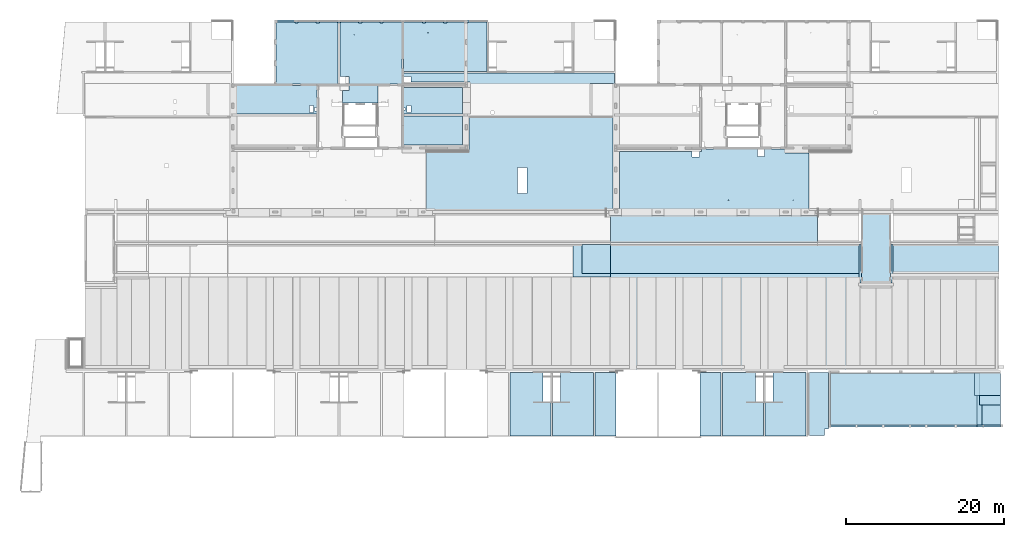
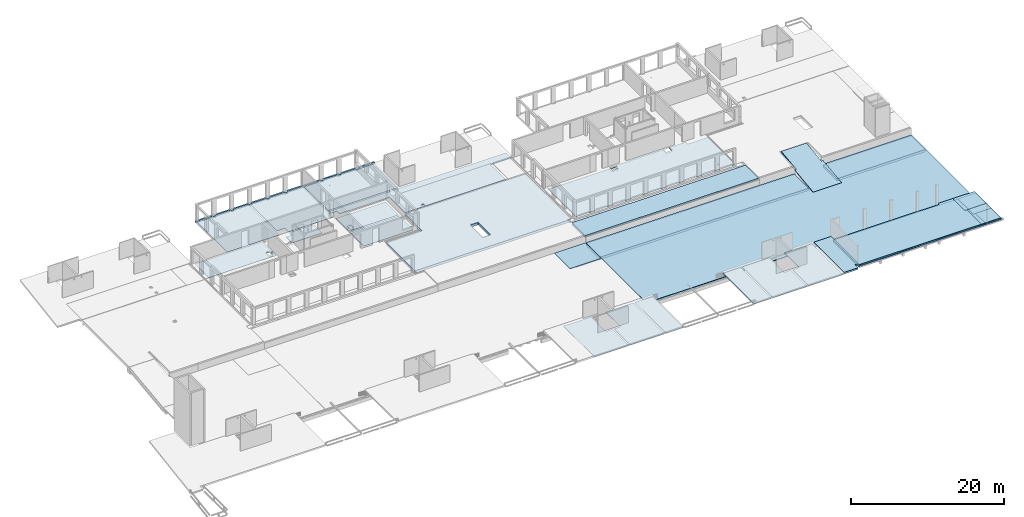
# One storey, part 16 of 36: 35 slabs, 15 openings.
"""IFC2X3 building model written with IfcOpenShell, lengths in millimetres."""

from ifc_helpers import new_model, entity, si_unit, converted_unit, derived_unit, direction, frame, frame_2d, origin, origin_2d_with_axis, place, context, subcontext, project, spatial, polyline, rectangle, circle, outline, extrude, clip, halfspace, material, layer, layer_set, layer_usage, element, save


model = new_model("IFC2X3")

# Units and contexts
model_context = context("Model", 3, precision=0.01, world=origin(), true_north=direction((6.12303176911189e-17, 1.0)))
body_context = subcontext(model_context, "Body", "Model", "MODEL_VIEW")
ifc_project = project(units=[si_unit("LENGTHUNIT", "METRE", prefix="MILLI"), si_unit("AREAUNIT", "SQUARE_METRE"), si_unit("VOLUMEUNIT", "CUBIC_METRE"), converted_unit("PLANEANGLEUNIT", "DEGREE", entity("IfcRatioMeasure", 0.0174532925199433), si_unit("PLANEANGLEUNIT", "RADIAN"), dimensions=[0, 0, 0, 0, 0, 0, 0]), si_unit("MASSUNIT", "GRAM", prefix="KILO"), derived_unit("MASSDENSITYUNIT", [(si_unit("MASSUNIT", "GRAM", prefix="KILO"), 1), (si_unit("LENGTHUNIT", "METRE"), -3)]), si_unit("TIMEUNIT", "SECOND"), si_unit("FREQUENCYUNIT", "HERTZ"), si_unit("THERMODYNAMICTEMPERATUREUNIT", "DEGREE_CELSIUS"), derived_unit("THERMALTRANSMITTANCEUNIT", [(si_unit("MASSUNIT", "GRAM", prefix="KILO"), 1), (si_unit("THERMODYNAMICTEMPERATUREUNIT", "KELVIN"), -1), (si_unit("TIMEUNIT", "SECOND"), -3)]), derived_unit("VOLUMETRICFLOWRATEUNIT", [(si_unit("LENGTHUNIT", "METRE"), 3), (si_unit("TIMEUNIT", "SECOND"), -1)]), si_unit("ELECTRICCURRENTUNIT", "AMPERE"), si_unit("ELECTRICVOLTAGEUNIT", "VOLT"), si_unit("POWERUNIT", "WATT"), si_unit("FORCEUNIT", "NEWTON", prefix="KILO"), si_unit("ILLUMINANCEUNIT", "LUX"), si_unit("LUMINOUSFLUXUNIT", "LUMEN"), si_unit("LUMINOUSINTENSITYUNIT", "CANDELA"), derived_unit("USERDEFINED", [(si_unit("MASSUNIT", "GRAM", prefix="KILO"), -1), (si_unit("LENGTHUNIT", "METRE"), -2), (si_unit("TIMEUNIT", "SECOND"), 3), (si_unit("LUMINOUSFLUXUNIT", "LUMEN"), 1)]), derived_unit("LINEARVELOCITYUNIT", [(si_unit("LENGTHUNIT", "METRE"), 1), (si_unit("TIMEUNIT", "SECOND"), -1)]), si_unit("PRESSUREUNIT", "PASCAL"), derived_unit("USERDEFINED", [(si_unit("LENGTHUNIT", "METRE"), -2), (si_unit("MASSUNIT", "GRAM", prefix="KILO"), 1), (si_unit("TIMEUNIT", "SECOND"), -2)])], contexts=[model_context])

# Site, building, storey
site_placement = place(None, origin())
site = spatial("IfcSite", under=ifc_project, at=site_placement, Name="Default", CompositionType="ELEMENT")
building_placement = place(site_placement, origin())
building = spatial("IfcBuilding", under=site, at=building_placement, Name="niet gebruiken", CompositionType="ELEMENT")
storey_placement = place(building_placement, frame((0.0, 0.0, 12600.0)))
storey = spatial("IfcBuildingStorey", under=building, at=storey_placement, Name="04 vierde verdieping", CompositionType="ELEMENT", Elevation=12600.0)

# Slabs
ifc_material_1 = material(Name="NLRS_f2_beton prefab")
ifc_layer_1 = layer(ifc_material_1, 400.0)
ifc_layer_set_1 = layer_set([ifc_layer_1], Name="Floor:NLRS_23.21_FL_kanaalplaat d=400_gen")
ifc_layer_usage_1 = layer_usage(ifc_layer_set_1, "AXIS3", "POSITIVE", 0.0)
slab_1_placement = place(storey_placement, origin())
element("IfcSlab", 1, at=slab_1_placement, inside=storey, material=ifc_layer_usage_1, Name="Floor:NLRS_23.21_FL_kanaalplaat d=400_gen", ObjectType="Floor:NLRS_23.21_FL_kanaalplaat d=400_gen", PredefinedType="FLOOR", context=body_context, shape_type="SweptSolid", body=[
    extrude(rectangle(XDim=3664.99999999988, YDim=13355.0000000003, at=frame_2d((0.0, -8.64019966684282e-12), x_axis=(1.0, 0.0))), frame((117522.499999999, 22898.4999999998, -1360.0), z_axis=(0.0, 0.0, -1.0), x_axis=(0.0, 1.0, 0.0)), (0.0, 0.0, 1.0), 400.0),
])
ifc_material_2 = material(Name="NLRS_f2_beton ihwg")
ifc_layer_2 = layer(ifc_material_2, 100.0)
ifc_layer_set_2 = layer_set([ifc_layer_2], Name="Floor:NLRS_23.21_FL_druklaag d=100_gen")
ifc_layer_usage_2 = layer_usage(ifc_layer_set_2, "AXIS3", "POSITIVE", 0.0)
slab_2_placement = place(storey_placement, origin())
element("IfcSlab", 2, at=slab_2_placement, inside=storey, material=ifc_layer_usage_2, Name="Floor:NLRS_23.21_FL_druklaag d=100_gen", ObjectType="Floor:NLRS_23.21_FL_druklaag d=100_gen", PredefinedType="FLOOR", context=body_context, shape_type="SweptSolid", body=[
    extrude(outline(polyline([(-10665.0, -29160.0), (5190.0, -29160.0), (5190.0, 2375.0), (285.0, 2375.0), (285.0, 6715.0), (5190.0, 6715.0), (5190.0, 20070.0), (-10665.0, 20070.0), (-10665.0, -29160.0)])), frame((104130.0, 19561.0, -1260.0), z_axis=(0.0, 0.0, -1.0), x_axis=(0.0, 1.0, 0.0)), (0.0, 0.0, 1.0), 99.9999999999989),
])

# Slab, openings
ifc_layer_usage_3 = layer_usage(ifc_layer_set_1, "AXIS3", "POSITIVE", 0.0)
slab_3_placement = place(storey_placement, frame((51625.0, 29101.0, -640.0)))
slab_3 = element("IfcSlab", 3, at=slab_3_placement, inside=storey, material=ifc_layer_usage_3, Name="Floor:NLRS_23.21_FL_kanaalplaat d=400_gen", ObjectType="Floor:NLRS_23.21_FL_kanaalplaat d=400_gen", PredefinedType="FLOOR", context=body_context, shape_type="SweptSolid", body=[
    extrude(outline(polyline([(6425.0, 1465.0), (6425.0, 5970.0), (-11825.0, 5970.0), (-11825.0, -5970.0), (11825.0, -5970.0), (11825.0, 1465.0), (6425.0, 1465.0)])), frame((11825.0, 5970.0, 400.0), z_axis=(0.0, 0.0, -1.0), x_axis=(-1.0, 0.0, 0.0)), (0.0, 0.0, 1.0), 400.0),
])
opening_1_placement = place(slab_3_placement, origin())
element("IfcOpeningElement", 4, at=opening_1_placement, cuts=slab_3, ObjectType="Opening", context=body_context, shape_type="SweptSolid", body=[
    extrude(rectangle(XDim=1200.0, YDim=3300.0, at=origin_2d_with_axis()), frame((12130.0, 3805.0, 230.0), z_axis=(0.0, 0.0, 1.0), x_axis=(-1.0, 0.0, 0.0)), (0.0, 0.0, 1.0), 249.999999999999),
])
opening_2_placement = place(slab_3_placement, frame((12130.0, 3805.0, 400.0)))
element("IfcOpeningElement", 5, at=opening_2_placement, cuts=slab_3, Name="Floor:NLRS_23.21_FL_kanaalplaat d=400_gen:2", ObjectType="Opening", context=body_context, shape_type="SweptSolid", body=[
    extrude(rectangle(XDim=1200.0, YDim=3299.99999999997, at=origin_2d_with_axis()), frame((0.0, 0.0, 0.0), z_axis=(0.0, 0.0, -1.0), x_axis=(1.0, 0.0, 0.0)), (0.0, 0.0, 1.0), 400.0),
])

# Slabs
ifc_layer_3 = layer(ifc_material_2, 250.0)
ifc_layer_set_3 = layer_set([ifc_layer_3], Name="Floor:NLRS_23.21_FL_breedplaat d=70/250_schil apart_gen")
ifc_layer_usage_4 = layer_usage(ifc_layer_set_3, "AXIS3", "POSITIVE", 0.0)
slab_4_placement = place(storey_placement, frame((32300.0, 53006.0, -340.0)))
element("IfcSlab", 6, at=slab_4_placement, inside=storey, material=ifc_layer_usage_4, Name="Floor:NLRS_23.21_FL_breedplaat d=70/250_schil apart_gen", ObjectType="Floor:NLRS_23.21_FL_breedplaat d=70/250_schil apart_gen", PredefinedType="FLOOR", context=body_context, shape_type="SweptSolid", body=[
    extrude(outline(polyline([(13540.0, 125.0), (-13540.0, 125.0), (-13540.0, -125.0), (-11065.0, -125.0), (-11065.0, -285.0), (-10655.0, -285.0), (-10655.0, -125.0), (-8365.0, -125.0), (-8365.0, -285.0), (-7955.0, -285.0), (-7955.0, -125.0), (-5665.0, -125.0), (-5665.0, -285.0), (-5255.0, -285.0), (-5255.0, -125.0), (-265.0, -125.0), (-265.0, -285.0), (145.0, -285.0), (145.0, -125.0), (2435.0, -125.0), (2435.0, -285.0), (2845.0, -285.0), (2845.0, -125.0), (5135.0, -125.0), (5135.0, -285.0), (5545.0, -285.0), (5545.0, -125.0), (7835.0, -125.0), (7835.0, -285.0), (8245.0, -285.0), (8245.0, -125.0), (10535.0, -125.0), (10535.0, -285.0), (10945.0, -285.0), (10945.0, -125.0), (13540.0, -125.0), (13540.0, 125.0)])), frame((13540.0, 125.0, 250.0), z_axis=(0.0, 0.0, -1.0), x_axis=(-1.0, 0.0, 0.0)), (0.0, 0.0, 1.0), 249.999999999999),
])
ifc_layer_usage_5 = layer_usage(ifc_layer_set_1, "AXIS3", "POSITIVE", 0.0)
slab_5_placement = place(storey_placement, origin())
element("IfcSlab", 7, at=slab_5_placement, inside=storey, material=ifc_layer_usage_5, Name="Floor:NLRS_23.21_FL_kanaalplaat d=400_gen", ObjectType="Floor:NLRS_23.21_FL_kanaalplaat d=400_gen", PredefinedType="FLOOR", context=body_context, shape_type="SweptSolid", body=[
    extrude(rectangle(XDim=3664.9999999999, YDim=31535.0000000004, at=origin_2d_with_axis()), frame((90737.4999999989, 22898.4999999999, -1360.0), z_axis=(0.0, 0.0, -1.0), x_axis=(0.0, 1.0, 0.0)), (0.0, 0.0, 1.0), 400.0),
])
ifc_layer_usage_6 = layer_usage(ifc_layer_set_2, "AXIS3", "POSITIVE", 0.0)
slab_6_placement = place(storey_placement, origin())
element("IfcSlab", 8, at=slab_6_placement, inside=storey, material=ifc_layer_usage_6, Name="Floor:NLRS_23.21_FL_druklaag d=100_gen", ObjectType="Floor:NLRS_23.21_FL_druklaag d=100_gen", PredefinedType="FLOOR", context=body_context, shape_type="SweptSolid", body=[
    extrude(rectangle(XDim=4104.99999999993, YDim=4749.99999999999, at=frame_2d((-2.04636307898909e-12, 4.32009983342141e-12), x_axis=(1.0, 0.0))), frame((72575.0, 22698.4999999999, -1260.0), z_axis=(0.0, 0.0, -1.0), x_axis=(0.0, 1.0, 0.0)), (0.0, 0.0, 1.0), 99.9999999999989),
])
ifc_layer_usage_7 = layer_usage(ifc_layer_set_1, "AXIS3", "POSITIVE", 0.0)
slab_7_placement = place(storey_placement, origin())
element("IfcSlab", 9, at=slab_7_placement, inside=storey, material=ifc_layer_usage_7, Name="Floor:NLRS_23.21_FL_kanaalplaat d=400_gen", ObjectType="Floor:NLRS_23.21_FL_kanaalplaat d=400_gen", PredefinedType="FLOOR", context=body_context, shape_type="SweptSolid", body=[
    extrude(rectangle(XDim=3664.99999999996, YDim=3600.0, at=origin_2d_with_axis()), frame((73150.0, 22898.4999999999, -1360.0), z_axis=(0.0, 0.0, -1.0), x_axis=(0.0, 1.0, 0.0)), (0.0, 0.0, 1.0), 400.0),
])
ifc_layer_4 = layer(ifc_material_1, 255.0)
ifc_layer_set_4 = layer_set([ifc_layer_4], Name="Floor:NLRS_23.21_FL_kanaalplaat d=255_gen")
ifc_layer_usage_8 = layer_usage(ifc_layer_set_4, "AXIS3", "POSITIVE", 0.0)
slab_8_placement = place(storey_placement, origin())
element("IfcSlab", 10, at=slab_8_placement, inside=storey, material=ifc_layer_usage_8, Name="Floor:NLRS_23.21_FL_kanaalplaat d=255_gen", ObjectType="Floor:NLRS_23.21_FL_kanaalplaat d=255_gen", PredefinedType="FLOOR", context=body_context, shape_type="SweptSolid", body=[
    extrude(outline(polyline([(-3050.66666666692, -12693.3353699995), (3555.33333333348, -12693.3353699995), (3555.33333333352, 6181.66463000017), (-504.666666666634, 6181.66463000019), (-504.666666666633, 6511.67073999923), (-3050.66666666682, 6511.67073999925), (-3050.66666666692, -12693.3353699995)])), frame((115618.335369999, 4900.66666666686, -760.0), z_axis=(0.0, 0.0, -1.0), x_axis=(0.0, 1.0, 0.0)), (0.0, 0.0, 1.0), 255.000000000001),
])
ifc_layer_5 = layer(ifc_material_2, 70.0)
ifc_layer_set_5 = layer_set([ifc_layer_5], Name="Floor:NLRS_23.21_FL_druklaag d=70_gen")
ifc_layer_usage_9 = layer_usage(ifc_layer_set_5, "AXIS3", "POSITIVE", 0.0)
slab_9_placement = place(storey_placement, origin())
element("IfcSlab", 11, at=slab_9_placement, inside=storey, material=ifc_layer_usage_9, Name="Floor:NLRS_23.21_FL_druklaag d=70_gen", ObjectType="Floor:NLRS_23.21_FL_druklaag d=70_gen", PredefinedType="FLOOR", context=body_context, shape_type="SweptSolid", body=[
    extrude(outline(polyline([(-4337.0, -13238.7499999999), (2329.0, -13238.7499999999), (2329.0, 2836.25000000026), (2579.0, 2836.25000000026), (2579.0, 5036.24999999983), (-571.0, 5036.24999999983), (-571.0, 5366.24999999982), (-4337.0, 5366.24999999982), (-4337.0, -13238.7499999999)])), frame((116163.75, 6167.0, -690.0), z_axis=(0.0, 0.0, -1.0), x_axis=(0.0, 1.0, 0.0)), (0.0, 0.0, 1.0), 69.9999999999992),
])
ifc_layer_6 = layer(ifc_material_2, 270.0)
ifc_layer_set_6 = layer_set([ifc_layer_6], Name="Floor:NLRS_23.21_FL_beton ihwg d=270_gen")
ifc_layer_usage_10 = layer_usage(ifc_layer_set_6, "AXIS3", "POSITIVE", 0.0)
slab_10_placement = place(storey_placement, origin())
element("IfcSlab", 12, at=slab_10_placement, inside=storey, material=ifc_layer_usage_10, Name="Floor:NLRS_23.21_FL_beton ihwg d=270_gen", ObjectType="Floor:NLRS_23.21_FL_beton ihwg d=270_gen", PredefinedType="FLOOR", context=body_context, shape_type="SweptSolid", body=[
    extrude(outline(polyline([(-2908.66666666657, -1560.00009290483), (5052.33333333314, -1560.00009290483), (5052.33333333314, 1054.99990709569), (-2143.66666666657, 1054.99990709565), (-2143.66666666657, 505.000185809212), (-2908.66666666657, 505.000185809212), (-2908.66666666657, -1560.00009290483)])), frame((101620.0, 3443.66666666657, -90.0), z_axis=(0.0, 0.0, -1.0), x_axis=(0.0, 1.0, 0.0)), (0.0, 0.0, 1.0), 269.999999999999),
])
ifc_layer_7 = layer(ifc_material_1, 70.0)
ifc_layer_set_7 = layer_set([ifc_layer_7], Name="Floor:NLRS_23.21_FL_breedplaatschil d=70_gen")
ifc_layer_usage_11 = layer_usage(ifc_layer_set_7, "AXIS3", "POSITIVE", 0.0)
slab_11_placement = place(storey_placement, origin())
element("IfcSlab", 13, at=slab_11_placement, inside=storey, material=ifc_layer_usage_11, Name="Floor:NLRS_23.21_FL_breedplaatschil d=70_gen", ObjectType="Floor:NLRS_23.21_FL_breedplaatschil d=70_gen", PredefinedType="FLOOR", context=body_context, shape_type="SweptSolid", body=[
    extrude(outline(polyline([(-4114.0, -2070.0), (132.0, -2070.0), (132.0, -1050.0), (3982.0, -1050.0), (3982.0, 3120.0), (-4114.0, 3120.0), (-4114.0, -2070.0)])), frame((69675.0, 4534.0, -270.0), z_axis=(0.0, 0.0, -1.0), x_axis=(0.0, 1.0, 0.0)), (0.0, 0.0, 1.0), 69.9999999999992),
])
ifc_layer_usage_12 = layer_usage(ifc_layer_set_7, "AXIS3", "POSITIVE", 0.0)
slab_12_placement = place(storey_placement, origin())
element("IfcSlab", 14, at=slab_12_placement, inside=storey, material=ifc_layer_usage_12, Name="Floor:NLRS_23.21_FL_breedplaatschil d=70_gen", ObjectType="Floor:NLRS_23.21_FL_breedplaatschil d=70_gen", PredefinedType="FLOOR", context=body_context, shape_type="SweptSolid", body=[
    extrude(rectangle(XDim=8095.99999999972, YDim=2675.00000000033, at=frame_2d((0.0, 8.64019966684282e-12), x_axis=(1.0, 0.0))), frame((74342.4999999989, 4468.0, -270.0), z_axis=(0.0, 0.0, -1.0), x_axis=(0.0, 1.0, 0.0)), (0.0, 0.0, 1.0), 69.9999999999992),
])
ifc_layer_usage_13 = layer_usage(ifc_layer_set_7, "AXIS3", "POSITIVE", 0.0)
slab_13_placement = place(storey_placement, origin())
element("IfcSlab", 15, at=slab_13_placement, inside=storey, material=ifc_layer_usage_13, Name="Floor:NLRS_23.21_FL_breedplaatschil d=70_gen", ObjectType="Floor:NLRS_23.21_FL_breedplaatschil d=70_gen", PredefinedType="FLOOR", context=body_context, shape_type="SweptSolid", body=[
    extrude(outline(polyline([(-4114.0, -3120.0), (3982.0, -3120.0), (3982.0, 1050.0), (132.0, 1050.0), (132.0, 2070.0), (-4114.0, 2070.0), (-4114.0, -3120.0)])), frame((65325.0, 4534.0, -270.0), z_axis=(0.0, 0.0, -1.0), x_axis=(0.0, 1.0, 0.0)), (0.0, 0.0, 1.0), 69.9999999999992),
])
ifc_layer_usage_14 = layer_usage(ifc_layer_set_7, "AXIS3", "POSITIVE", 0.0)
slab_14_placement = place(storey_placement, origin())
element("IfcSlab", 16, at=slab_14_placement, inside=storey, material=ifc_layer_usage_14, Name="Floor:NLRS_23.21_FL_breedplaatschil d=70_gen", ObjectType="Floor:NLRS_23.21_FL_breedplaatschil d=70_gen", PredefinedType="FLOOR", context=body_context, shape_type="SweptSolid", body=[
    extrude(outline(polyline([(-4114.0, -3120.0), (3982.0, -3120.0), (3982.0, 1050.0), (132.0, 1050.0), (132.0, 2070.0), (-4114.0, 2070.0), (-4114.0, -3120.0)])), frame((92325.0, 4534.0, -270.0), z_axis=(0.0, 0.0, -1.0), x_axis=(0.0, 1.0, 0.0)), (0.0, 0.0, 1.0), 69.9999999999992),
])
ifc_layer_usage_15 = layer_usage(ifc_layer_set_7, "AXIS3", "POSITIVE", 0.0)
slab_15_placement = place(storey_placement, origin())
element("IfcSlab", 17, at=slab_15_placement, inside=storey, material=ifc_layer_usage_15, Name="Floor:NLRS_23.21_FL_breedplaatschil d=70_gen", ObjectType="Floor:NLRS_23.21_FL_breedplaatschil d=70_gen", PredefinedType="FLOOR", context=body_context, shape_type="SweptSolid", body=[
    extrude(rectangle(XDim=8095.99999999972, YDim=2675.00000000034, at=frame_2d((4.54747350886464e-13, 0.0), x_axis=(1.0, 0.0))), frame((87657.4999999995, 4468.0, -270.0), z_axis=(0.0, 0.0, -1.0), x_axis=(0.0, 1.0, 0.0)), (0.0, 0.0, 1.0), 69.9999999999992),
])
ifc_layer_usage_16 = layer_usage(ifc_layer_set_7, "AXIS3", "POSITIVE", 0.0)
slab_16_placement = place(storey_placement, origin())
element("IfcSlab", 18, at=slab_16_placement, inside=storey, material=ifc_layer_usage_16, Name="Floor:NLRS_23.21_FL_breedplaatschil d=70_gen", ObjectType="Floor:NLRS_23.21_FL_breedplaatschil d=70_gen", PredefinedType="FLOOR", context=body_context, shape_type="SweptSolid", body=[
    extrude(outline(polyline([(-4114.0, -2070.0), (132.0, -2070.0), (132.0, -1050.0), (3982.0, -1050.0), (3982.0, 3120.0), (-4114.0, 3120.0), (-4114.0, -2070.0)])), frame((96675.0, 4534.0, -270.0), z_axis=(0.0, 0.0, -1.0), x_axis=(0.0, 1.0, 0.0)), (0.0, 0.0, 1.0), 69.9999999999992),
])
ifc_layer_usage_17 = layer_usage(ifc_layer_set_7, "AXIS3", "POSITIVE", 0.0)
slab_17_placement = place(storey_placement, origin())
element("IfcSlab", 19, at=slab_17_placement, inside=storey, material=ifc_layer_usage_17, Name="Floor:NLRS_23.21_FL_breedplaatschil d=70_gen", ObjectType="Floor:NLRS_23.21_FL_breedplaatschil d=70_gen", PredefinedType="FLOOR", context=body_context, shape_type="SweptSolid", body=[
    extrude(outline(polyline([(-1261.66666666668, -1808.33338363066), (313.333333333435, -1808.33338363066), (313.333333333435, -933.333232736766), (948.333333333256, -933.333232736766), (948.333333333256, 2741.66661636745), (-1261.66666666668, 2741.66661636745), (-1261.66666666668, -1808.33338363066)])), frame((42733.3332327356, 43977.6666666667, -270.0), z_axis=(0.0, 0.0, -1.0), x_axis=(0.0, 1.0, 0.0)), (0.0, 0.0, 1.0), 70.0000000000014),
])

# Slab, openings
ifc_layer_usage_18 = layer_usage(ifc_layer_set_7, "AXIS3", "POSITIVE", 0.0)
slab_18_placement = place(storey_placement, frame((27505.0, 41291.0, -340.0)))
slab_18 = element("IfcSlab", 20, at=slab_18_placement, inside=storey, material=ifc_layer_usage_18, Name="Floor:NLRS_23.21_FL_breedplaatschil d=70_gen", ObjectType="Floor:NLRS_23.21_FL_breedplaatschil d=70_gen", PredefinedType="FLOOR", context=body_context, shape_type="SweptSolid", body=[
    extrude(rectangle(XDim=10190.0, YDim=3635.0000000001, at=frame_2d((0.0, 0.0), x_axis=(-1.0, 0.0))), frame((5095.0, 1817.50000000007, 70.0), z_axis=(0.0, 0.0, -1.0), x_axis=(-1.0, 0.0, 0.0)), (0.0, 0.0, 1.0), 69.9999999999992),
])
opening_3_placement = place(slab_18_placement, origin())
element("IfcOpeningElement", 21, at=opening_3_placement, cuts=slab_18, ObjectType="Opening", context=body_context, shape_type="SweptSolid", body=[
    extrude(rectangle(XDim=249.999999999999, YDim=450.000000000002, at=origin_2d_with_axis()), frame((10030.0, 624.788729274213, 0.0), z_axis=(0.0, 0.0, 1.0), x_axis=(-1.0, 0.0, 0.0)), (0.0, 0.0, 1.0), 249.999999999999),
])
opening_4_placement = place(slab_18_placement, origin())
element("IfcOpeningElement", 22, at=opening_4_placement, cuts=slab_18, ObjectType="Opening", context=body_context, shape_type="SweptSolid", body=[
    extrude(rectangle(XDim=490.000000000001, YDim=900.000000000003, at=origin_2d_with_axis()), frame((9515.0, 645.0, 0.0), z_axis=(0.0, 0.0, 1.0), x_axis=(-1.0, 0.0, 0.0)), (0.0, 0.0, 1.0), 249.999999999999),
])

ifc_layer_usage_19 = layer_usage(ifc_layer_set_7, "AXIS3", "POSITIVE", 0.0)
slab_19_placement = place(storey_placement, frame((48705.0, 41291.0, -340.0)))
slab_19 = element("IfcSlab", 23, at=slab_19_placement, inside=storey, material=ifc_layer_usage_19, Name="Floor:NLRS_23.21_FL_breedplaatschil d=70_gen", ObjectType="Floor:NLRS_23.21_FL_breedplaatschil d=70_gen", PredefinedType="FLOOR", context=body_context, shape_type="SweptSolid", body=[
    extrude(rectangle(XDim=3410.00000000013, YDim=7490.00000000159, at=frame_2d((0.0, 0.0), x_axis=(0.0, -1.0))), frame((3745.0, 1705.0, 70.0), z_axis=(0.0, 0.0, -1.0), x_axis=(-1.0, 0.0, 0.0)), (0.0, 0.0, 1.0), 69.9999999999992),
])
opening_5_placement = place(slab_19_placement, origin())
element("IfcOpeningElement", 24, at=opening_5_placement, cuts=slab_19, ObjectType="Opening", context=body_context, shape_type="SweptSolid", body=[
    extrude(rectangle(XDim=900.000000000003, YDim=500.000000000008, at=origin_2d_with_axis()), frame((670.0, 645.0, 0.0), z_axis=(0.0, 0.0, 1.0), x_axis=(0.0, -1.0, 0.0)), (0.0, 0.0, 1.0), 249.999999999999),
])
opening_6_placement = place(slab_19_placement, origin())
element("IfcOpeningElement", 25, at=opening_6_placement, cuts=slab_19, ObjectType="Opening", context=body_context, shape_type="SweptSolid", body=[
    extrude(rectangle(XDim=250.000000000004, YDim=250.000000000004, at=origin_2d_with_axis()), frame((145.0, 643.008926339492, 0.0), z_axis=(0.0, 0.0, 1.0), x_axis=(-1.0, 0.0, 0.0)), (0.0, 0.0, 1.0), 249.999999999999),
])

# Slab
ifc_layer_usage_20 = layer_usage(ifc_layer_set_7, "AXIS3", "POSITIVE", 0.0)
slab_20_placement = place(storey_placement, origin())
element("IfcSlab", 26, at=slab_20_placement, inside=storey, material=ifc_layer_usage_20, Name="Floor:NLRS_23.21_FL_breedplaatschil d=70_gen", ObjectType="Floor:NLRS_23.21_FL_breedplaatschil d=70_gen", PredefinedType="FLOOR", context=body_context, shape_type="SweptSolid", body=[
    extrude(rectangle(XDim=3694.99999999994, YDim=7490.00000000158, at=frame_2d((-6.48014975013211e-12, 8.64019966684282e-12), x_axis=(1.0, 0.0))), frame((52450.0, 39233.5000000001, -270.0), z_axis=(0.0, 0.0, -1.0), x_axis=(0.0, 1.0, 0.0)), (0.0, 0.0, 1.0), 69.9999999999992),
])

# Slab, opening
ifc_layer_usage_21 = layer_usage(ifc_layer_set_7, "AXIS3", "POSITIVE", 0.0)
slab_21_placement = place(storey_placement, frame((48705.0, 46726.0, -340.0)))
slab_21 = element("IfcSlab", 27, at=slab_21_placement, inside=storey, material=ifc_layer_usage_21, Name="Floor:NLRS_23.21_FL_breedplaatschil d=70_gen", ObjectType="Floor:NLRS_23.21_FL_breedplaatschil d=70_gen", PredefinedType="FLOOR", context=body_context, shape_type="SweptSolid", body=[
    extrude(outline(polyline([(2885.0, 3150.0), (2885.0, 2990.0), (2515.0, 2990.0), (2515.0, 3150.0), (185.0, 3150.0), (185.0, 2990.0), (-185.0, 2990.0), (-185.0, 3150.0), (-2515.0, 3150.0), (-2515.0, 2990.0), (-2885.0, 2990.0), (-2885.0, 3150.0), (-5295.0, 3150.0), (-5295.0, -3150.0), (5295.0, -3150.0), (5295.0, 3150.0), (2885.0, 3150.0)])), frame((5295.0, 3150.0, 70.0), z_axis=(0.0, 0.0, -1.0), x_axis=(-1.0, 0.0, 0.0)), (0.0, 0.0, 1.0), 69.9999999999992),
])
opening_7_placement = place(storey_placement, frame((48705.0, 46726.0, -340.0)))
element("IfcOpeningElement", 28, at=opening_7_placement, cuts=slab_21, ObjectType="Opening", context=body_context, shape_type="SweptSolid", body=[
    extrude(circle(Radius=37.5, at=frame_2d((2200.0, 1780.0), x_axis=(1.0, 0.0))), frame((5295.0, 3150.0, 70.0), z_axis=(0.0, 0.0, -1.0), x_axis=(-1.0, 0.0, 0.0)), (0.0, 0.0, 1.0), 69.9999999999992),
])

# Slab
ifc_layer_usage_22 = layer_usage(ifc_layer_set_7, "AXIS3", "POSITIVE", 0.0)
slab_22_placement = place(storey_placement, origin())
element("IfcSlab", 29, at=slab_22_placement, inside=storey, material=ifc_layer_usage_22, Name="Floor:NLRS_23.21_FL_breedplaatschil d=70_gen", ObjectType="Floor:NLRS_23.21_FL_breedplaatschil d=70_gen", PredefinedType="FLOOR", context=body_context, shape_type="SweptSolid", body=[
    extrude(outline(polyline([(-6694.28571428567, -4475.71428571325), (1195.71428571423, -4475.71428571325), (1195.71428571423, -2090.71428571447), (1035.71428571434, -2090.71428571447), (1035.71428571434, -1720.71428571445), (1195.71428571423, -1720.71428571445), (1195.71428571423, 609.285714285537), (1035.71428571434, 609.285714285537), (1035.71428571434, 979.285714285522), (1195.71428571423, 979.285714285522), (1195.71428571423, 3309.28571428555), (1035.71428571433, 3309.28571428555), (1035.71428571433, 3389.28571428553), (-6694.28571428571, 3389.28571428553), (-6694.28571428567, -4475.71428571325)])), frame((37005.7142857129, 51830.2857142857, -270.0), z_axis=(0.0, 0.0, -1.0), x_axis=(0.0, 1.0, 0.0)), (0.0, 0.0, 1.0), 69.9999999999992),
])

# Slab, openings
ifc_layer_usage_23 = layer_usage(ifc_layer_set_7, "AXIS3", "POSITIVE", 0.0)
slab_23_placement = place(storey_placement, frame((40605.0, 45136.0, -340.0)))
slab_23 = element("IfcSlab", 30, at=slab_23_placement, inside=storey, material=ifc_layer_usage_23, Name="Floor:NLRS_23.21_FL_breedplaatschil d=70_gen", ObjectType="Floor:NLRS_23.21_FL_breedplaatschil d=70_gen", PredefinedType="FLOOR", context=body_context, shape_type="SweptSolid", body=[
    extrude(outline(polyline([(-1535.0, 3945.0), (-3945.0, 3945.0), (-3945.0, -3945.0), (3575.0, -3945.0), (3575.0, -3025.0), (3945.0, -3025.0), (3945.0, 3785.0), (3865.0, 3785.0), (3865.0, 3945.0), (1535.0, 3945.0), (1535.0, 3785.0), (1165.0, 3785.0), (1165.0, 3945.0), (-1165.0, 3945.0), (-1165.0, 3785.0), (-1535.0, 3785.0), (-1535.0, 3945.0)])), frame((3945.0, 3945.0, 70.0), z_axis=(0.0, 0.0, -1.0), x_axis=(-1.0, 0.0, 0.0)), (0.0, 0.0, 1.0), 69.9999999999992),
])
opening_8_placement = place(storey_placement, frame((40605.0, 45136.0, -340.0)))
element("IfcOpeningElement", 31, at=opening_8_placement, cuts=slab_23, ObjectType="Opening", context=body_context, shape_type="SweptSolid", body=[
    extrude(circle(Radius=37.5, at=frame_2d((2100.0, 2325.0), x_axis=(1.0, 0.0))), frame((3945.0, 3945.0, 70.0), z_axis=(0.0, 0.0, -1.0), x_axis=(-1.0, 0.0, 0.0)), (0.0, 0.0, 1.0), 69.9999999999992),
])
opening_9_placement = place(slab_23_placement, origin())
element("IfcOpeningElement", 32, at=opening_9_placement, cuts=slab_23, ObjectType="Opening", context=body_context, shape_type="SweptSolid", body=[
    extrude(rectangle(XDim=1200.0, YDim=1800.00000000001, at=origin_2d_with_axis()), frame((595.0, 55.0, 0.0), z_axis=(0.0, 0.0, 1.0), x_axis=(-1.0, 0.0, 0.0)), (0.0, 0.0, 1.0), 100.000000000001),
])

# Slab, opening
ifc_layer_usage_24 = layer_usage(ifc_layer_set_7, "AXIS3", "POSITIVE", 0.0)
slab_24_placement = place(storey_placement, frame((48705.0, 41291.0, -340.0)))
slab_24 = element("IfcSlab", 33, at=slab_24_placement, inside=storey, material=ifc_layer_usage_24, Name="Floor:NLRS_23.21_FL_breedplaatschil d=70_gen", ObjectType="Floor:NLRS_23.21_FL_breedplaatschil d=70_gen", PredefinedType="FLOOR", context=body_context, shape_type="SweptSolid", body=[
    extrude(outline(polyline([(-13382.5000000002, 2612.4999999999), (-13382.5000000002, 1272.49999999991), (-10287.5000000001, 1272.49999999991), (-10287.5000000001, -2612.4999999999), (4932.49999999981, -2612.4999999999), (4932.49999999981, 1457.50000000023), (12462.5000000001, 1457.50000000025), (12462.5000000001, 2152.50000000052), (13382.5000000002, 2152.50000000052), (13382.5000000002, 2612.4999999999), (-13382.5000000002, 2612.4999999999)])), frame((13382.5000000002, 2612.4999999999, 70.0), z_axis=(0.0, 0.0, -1.0), x_axis=(-1.0, 0.0, 0.0)), (0.0, 0.0, 1.0), 69.9999999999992),
])
opening_10_placement = place(slab_24_placement, origin())
element("IfcOpeningElement", 34, at=opening_10_placement, cuts=slab_24, ObjectType="Opening", context=body_context, shape_type="SweptSolid", body=[
    extrude(rectangle(XDim=400.000000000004, YDim=400.000000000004, at=origin_2d_with_axis()), frame((11295.0, 219.99962752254, 0.0), z_axis=(0.0, 0.0, 1.0), x_axis=(-1.0, 0.0, 0.0)), (0.0, 0.0, 1.0), 275.0),
])

# Slab, openings
ifc_layer_usage_25 = layer_usage(ifc_layer_set_7, "AXIS3", "POSITIVE", 0.0)
slab_25_placement = place(storey_placement, frame((76105.0, 29286.0, -340.0)))
slab_25 = element("IfcSlab", 35, at=slab_25_placement, inside=storey, material=ifc_layer_usage_25, Name="Floor:NLRS_23.21_FL_breedplaatschil d=70_gen", ObjectType="Floor:NLRS_23.21_FL_breedplaatschil d=70_gen", PredefinedType="FLOOR", context=body_context, shape_type="SweptSolid", body=[
    extrude(outline(polyline([(12035.0, -3795.0), (12035.0, 3495.0), (1635.0, 3495.0), (1635.0, 3795.0), (-5489.98186661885, 3795.0), (-5489.98186661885, 2875.0), (-6389.98186661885, 2875.0), (-6389.98186661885, 3795.0), (-8955.0, 3795.0), (-8955.0, 3295.0), (-12035.0, 3295.0), (-12035.0, -3795.0), (12035.0, -3795.0)])), frame((12035.0, 3795.0, 70.0), z_axis=(0.0, 0.0, -1.0), x_axis=(-1.0, 0.0, 0.0)), (0.0, 0.0, 1.0), 69.9999999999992),
])
opening_11_placement = place(storey_placement, frame((76105.0, 29286.0, -340.0)))
element("IfcOpeningElement", 36, at=opening_11_placement, cuts=slab_25, ObjectType="Opening", context=body_context, shape_type="SweptSolid", body=[
    extrude(circle(Radius=37.5, at=frame_2d((-10060.0, -2725.0), x_axis=(1.0, 0.0))), frame((12035.0, 3795.0, 70.0), z_axis=(0.0, 0.0, -1.0), x_axis=(-1.0, 0.0, 0.0)), (0.0, 0.0, 1.0), 69.9999999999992),
])
opening_12_placement = place(storey_placement, frame((76105.0, 29286.0, -340.0)))
element("IfcOpeningElement", 37, at=opening_12_placement, cuts=slab_25, ObjectType="Opening", context=body_context, shape_type="SweptSolid", body=[
    extrude(circle(Radius=37.5, at=frame_2d((-1810.0, -2725.0), x_axis=(1.0, 0.0))), frame((12035.0, 3795.0, 70.0), z_axis=(0.0, 0.0, -1.0), x_axis=(-1.0, 0.0, 0.0)), (0.0, 0.0, 1.0), 69.9999999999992),
])
opening_13_placement = place(slab_25_placement, origin())
element("IfcOpeningElement", 38, at=opening_13_placement, cuts=slab_25, ObjectType="Opening", context=body_context, shape_type="SweptSolid", body=[
    extrude(rectangle(XDim=919.999999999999, YDim=706.000000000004, at=origin_2d_with_axis()), frame((9700.0, 6917.0, 0.0), z_axis=(0.0, 0.0, 1.0), x_axis=(-1.0, 0.0, 0.0)), (0.0, 0.0, 1.0), 249.999999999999),
])

# Slab
ifc_layer_usage_26 = layer_usage(ifc_layer_set_2, "AXIS3", "POSITIVE", 0.0)
slab_26_placement = place(storey_placement, origin())
element("IfcSlab", 39, at=slab_26_placement, inside=storey, material=ifc_layer_usage_26, Name="Floor:NLRS_23.21_FL_druklaag d=100_gen", ObjectType="Floor:NLRS_23.21_FL_druklaag d=100_gen", PredefinedType="FLOOR", context=body_context, shape_type="Clipping", body=[
    clip(clip(extrude(outline(polyline([(-4679.76626445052, -2150.0), (238.0823213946, -2150.0), (238.0823213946, -1900.0), (4203.60162166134, -1900.0), (4203.60162166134, 1900.0), (238.082321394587, 1900.0), (238.082321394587, 2150.0), (-4679.76626445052, 2150.0), (-4679.76626445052, -2150.0)])), frame((108675.0, 24489.7499999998, -680.519001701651), z_axis=(0.0, 0.123826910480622, -0.992303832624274), x_axis=(0.0, 0.992303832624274, 0.123826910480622)), (-0.123826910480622, 0.0, 0.992303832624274), 101.557186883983), halfspace(frame((107960.0, 19846.0, -1360.77558577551), z_axis=(0.0, 0.123826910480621, -0.992303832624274), x_axis=(0.0, 0.992303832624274, 0.123826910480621)), False)), halfspace(frame((107960.0, 19846.0, -1260.0), z_axis=(0.0, -0.123826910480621, 0.992303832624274), x_axis=(0.0, -0.992303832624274, -0.123826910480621)), False)),
])

# Slab, openings
ifc_layer_usage_27 = layer_usage(ifc_layer_set_1, "AXIS3", "POSITIVE", 0.0)
slab_27_placement = place(storey_placement, frame((106795.0, 19846.0952992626, -1763.8660367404)))
slab_27 = element("IfcSlab", 40, at=slab_27_placement, inside=storey, material=ifc_layer_usage_27, Name="Floor:NLRS_23.21_FL_kanaalplaat d=400_gen", ObjectType="Floor:NLRS_23.21_FL_kanaalplaat d=400_gen", PredefinedType="FLOOR", context=body_context, shape_type="SweptSolid", body=[
    extrude(rectangle(XDim=3760.00000000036, YDim=8883.36788611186, at=frame_2d((-4050.0, 4441.68394305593), x_axis=(-1.0, 0.0))), frame((5930.0, 0.0, 403.102343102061), z_axis=(0.0, -0.123826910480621, 0.992303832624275), x_axis=(1.0, 0.0, 0.0)), (0.0, -0.123826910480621, -0.992303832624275), 403.102343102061),
])
opening_14_placement = place(slab_27_placement, origin())
element("IfcOpeningElement", 41, at=opening_14_placement, cuts=slab_27, ObjectType="Opening", context=body_context, shape_type="SweptSolid", body=[
    extrude(rectangle(XDim=500.000000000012, YDim=65.0000000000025, at=frame_2d((0.0, 0.0), x_axis=(0.0, 1.0))), frame((3727.50000000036, 428.626831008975, 284.712008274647), z_axis=(0.0, 0.992303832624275, 0.123826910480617), x_axis=(-1.0, 0.0, 0.0)), (0.0, 0.0, 1.0), 1085.0),
])
opening_15_placement = place(slab_27_placement, origin())
element("IfcOpeningElement", 42, at=opening_15_placement, cuts=slab_27, ObjectType="Opening", context=body_context, shape_type="SweptSolid", body=[
    extrude(rectangle(XDim=500.000000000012, YDim=65.0000000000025, at=origin_2d_with_axis()), frame((32.4999999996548, 428.626831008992, 284.712008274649), z_axis=(0.0, 0.992303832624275, 0.123826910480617), x_axis=(0.0, -0.123826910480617, 0.992303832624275)), (0.0, 0.0, 1.0), 1085.0),
])

# Slabs
ifc_layer_8 = layer(ifc_material_2, 80.0)
ifc_layer_set_8 = layer_set([ifc_layer_8], Name="Floor:NLRS_23.21_FL_druklaag d=80_gen")
ifc_layer_usage_28 = layer_usage(ifc_layer_set_8, "AXIS3", "POSITIVE", 0.0)
slab_28_placement = place(storey_placement, origin())
element("IfcSlab", 43, at=slab_28_placement, inside=storey, material=ifc_layer_usage_28, Name="Floor:NLRS_23.21_FL_druklaag d=80_gen", ObjectType="Floor:NLRS_23.21_FL_druklaag d=80_gen", PredefinedType="FLOOR", context=body_context, shape_type="SweptSolid", body=[
    extrude(rectangle(XDim=3454.99999999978, YDim=26290.0000000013, at=frame_2d((0.0, 4.54747350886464e-12), x_axis=(1.0, 0.0))), frame((88115.0, 26728.5, -305.0), z_axis=(0.0, 0.0, -1.0), x_axis=(0.0, 1.0, 0.0)), (0.0, 0.0, 1.0), 79.9999999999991),
])
ifc_layer_usage_29 = layer_usage(ifc_layer_set_4, "AXIS3", "POSITIVE", 0.0)
slab_29_placement = place(storey_placement, origin())
element("IfcSlab", 44, at=slab_29_placement, inside=storey, material=ifc_layer_usage_29, Name="Floor:NLRS_23.21_FL_kanaalplaat d=255_gen", ObjectType="Floor:NLRS_23.21_FL_kanaalplaat d=255_gen", PredefinedType="FLOOR", context=body_context, shape_type="SweptSolid", body=[
    extrude(rectangle(XDim=3414.99999999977, YDim=26280.0000000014, at=frame_2d((4.32009983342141e-12, -4.54747350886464e-12), x_axis=(1.0, 0.0))), frame((88110.0, 26728.5, -385.0), z_axis=(0.0, 0.0, -1.0), x_axis=(0.0, 1.0, 0.0)), (0.0, 0.0, 1.0), 255.000000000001),
])
ifc_layer_usage_30 = layer_usage(ifc_layer_set_4, "AXIS3", "POSITIVE", 0.0)
slab_30_placement = place(storey_placement, origin())
element("IfcSlab", 45, at=slab_30_placement, inside=storey, material=ifc_layer_usage_30, Name="Floor:NLRS_23.21_FL_kanaalplaat d=255_gen", ObjectType="Floor:NLRS_23.21_FL_kanaalplaat d=255_gen", PredefinedType="FLOOR", context=body_context, shape_type="SweptSolid", body=[
    extrude(rectangle(XDim=4060.00000000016, YDim=2709.99999999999, at=frame_2d((-3.06954461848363e-12, -8.64019966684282e-12), x_axis=(1.0, 0.0))), frame((123155.0, 6426.0, -760.0), z_axis=(0.0, 0.0, -1.0), x_axis=(0.0, 1.0, 0.0)), (0.0, 0.0, 1.0), 255.000000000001),
])
ifc_layer_usage_31 = layer_usage(ifc_layer_set_5, "AXIS3", "POSITIVE", 0.0)
slab_31_placement = place(storey_placement, origin())
element("IfcSlab", 46, at=slab_31_placement, inside=storey, material=ifc_layer_usage_31, Name="Floor:NLRS_23.21_FL_druklaag d=70_gen", ObjectType="Floor:NLRS_23.21_FL_druklaag d=70_gen", PredefinedType="FLOOR", context=body_context, shape_type="SweptSolid", body=[
    extrude(rectangle(XDim=3149.99999999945, YDim=3310.00000000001, at=frame_2d((-2.61479726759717e-12, 0.0), x_axis=(1.0, 0.0))), frame((122855.0, 7171.0, -690.0), z_axis=(0.0, 0.0, -1.0), x_axis=(0.0, 1.0, 0.0)), (0.0, 0.0, 1.0), 69.9999999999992),
])
ifc_layer_usage_32 = layer_usage(ifc_layer_set_5, "AXIS3", "POSITIVE", 0.0)
slab_32_placement = place(storey_placement, origin())
element("IfcSlab", 47, at=slab_32_placement, inside=storey, material=ifc_layer_usage_32, Name="Floor:NLRS_23.21_FL_druklaag d=70_gen", ObjectType="Floor:NLRS_23.21_FL_druklaag d=70_gen", PredefinedType="FLOOR", context=body_context, shape_type="SweptSolid", body=[
    extrude(rectangle(XDim=260.0, YDim=18604.9999999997, at=frame_2d((-2.70006239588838e-13, -9.09494701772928e-12), x_axis=(1.0, 0.0))), frame((112227.5, 1700.0, -690.0), z_axis=(0.0, 0.0, -1.0), x_axis=(0.0, 1.0, 0.0)), (0.0, 0.0, 1.0), 69.9999999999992),
])
ifc_layer_usage_33 = layer_usage(ifc_layer_set_5, "AXIS3", "POSITIVE", 0.0)
slab_33_placement = place(storey_placement, origin())
element("IfcSlab", 48, at=slab_33_placement, inside=storey, material=ifc_layer_usage_33, Name="Floor:NLRS_23.21_FL_druklaag d=70_gen", ObjectType="Floor:NLRS_23.21_FL_druklaag d=70_gen", PredefinedType="FLOOR", context=body_context, shape_type="SweptSolid", body=[
    extrude(rectangle(XDim=260.00000000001, YDim=2980.00000000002, at=frame_2d((-2.30215846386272e-12, 0.0), x_axis=(1.0, 0.0))), frame((123020.0, 1700.0, -690.0), z_axis=(0.0, 0.0, -1.0), x_axis=(0.0, 1.0, 0.0)), (0.0, 0.0, 1.0), 69.9999999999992),
])
ifc_layer_usage_34 = layer_usage(ifc_layer_set_4, "AXIS3", "POSITIVE", 0.0)
slab_34_placement = place(storey_placement, origin())
element("IfcSlab", 49, at=slab_34_placement, inside=storey, material=ifc_layer_usage_34, Name="Floor:NLRS_23.21_FL_kanaalplaat d=255_gen", ObjectType="Floor:NLRS_23.21_FL_kanaalplaat d=255_gen", PredefinedType="FLOOR", context=body_context, shape_type="SweptSolid", body=[
    extrude(rectangle(XDim=2546.00000000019, YDim=2380.00000000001, at=frame_2d((-1.70530256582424e-12, 0.0), x_axis=(1.0, 0.0))), frame((123320.0, 3123.0, -760.0), z_axis=(0.0, 0.0, -1.0), x_axis=(0.0, 1.0, 0.0)), (0.0, 0.0, 1.0), 255.000000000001),
])
ifc_layer_usage_35 = layer_usage(ifc_layer_set_5, "AXIS3", "POSITIVE", 0.0)
slab_35_placement = place(storey_placement, origin())
element("IfcSlab", 50, at=slab_35_placement, inside=storey, material=ifc_layer_usage_35, Name="Floor:NLRS_23.21_FL_druklaag d=70_gen", ObjectType="Floor:NLRS_23.21_FL_druklaag d=70_gen", PredefinedType="FLOOR", context=body_context, shape_type="SweptSolid", body=[
    extrude(rectangle(XDim=3766.00000000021, YDim=2980.00000000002, at=frame_2d((-1.93267624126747e-12, 0.0), x_axis=(1.0, 0.0))), frame((123020.0, 3713.0, -690.0), z_axis=(0.0, 0.0, -1.0), x_axis=(0.0, 1.0, 0.0)), (0.0, 0.0, 1.0), 69.9999999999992),
])

save(model, "model.ifc")
